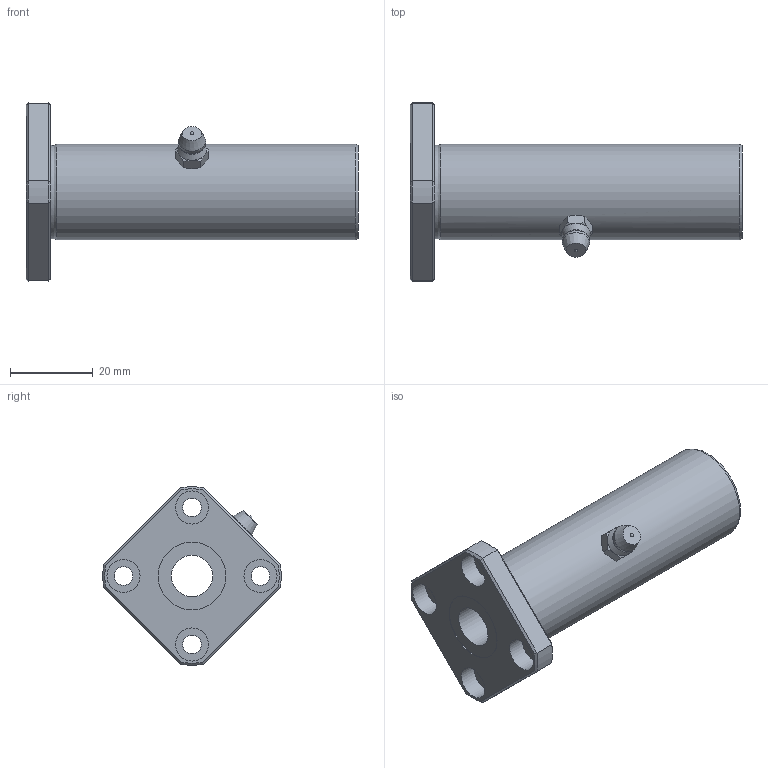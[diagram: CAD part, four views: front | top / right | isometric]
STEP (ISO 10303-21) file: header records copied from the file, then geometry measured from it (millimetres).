
FILE_DESCRIPTION((''),'2;1');
FILE_NAME('D:\製品 (図面)\カタログ用3D\リニアベアリング関連\STEP形式\LFLK\LFLK10.stp','2010-06-04T09:07:41',('Tsuchiya'),(''),'Autodesk Inventor 10','Autodesk Inventor 10','');
FILE_SCHEMA(('AUTOMOTIVE_DESIGN { 1 0 10303 214 1 1 1 1 }'));
Length unit declared in the file: millimetre
Products named in the file (1): LFLK10
Bounding box: 80 x 42.96 x 42.96 mm (x, y, z)
Volume: 30453.7 mm3; surface area: 11242.4 mm2
Topology: 1 solids, 1 shells, 76 faces, 159 edges, 94 vertices
Faces by surface type: plane 31, cone 21, cylinder 18, bspline 3, sphere 2, torus 1
Full cylindrical faces by diameter (mm): 4.5 x4, 8 x4, 10 x1, 16.3 x2, 23 x1
Entity records: 2171 total; most frequent: CARTESIAN_POINT 657, DIRECTION 310, ORIENTED_EDGE 280, EDGE_CURVE 140, AXIS2_PLACEMENT_3D 138, EDGE_LOOP 114, VERTEX_POINT 92, FACE_OUTER_BOUND 76
